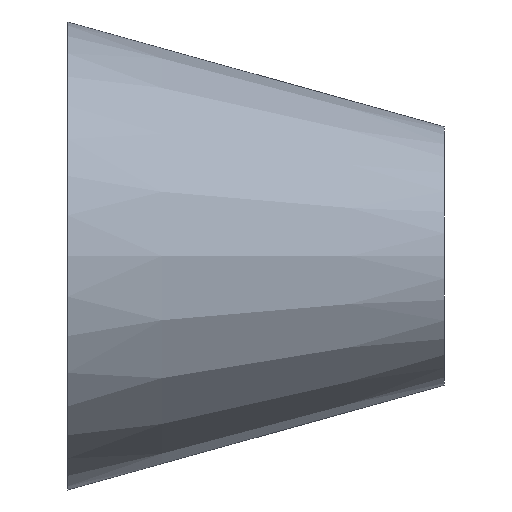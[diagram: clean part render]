
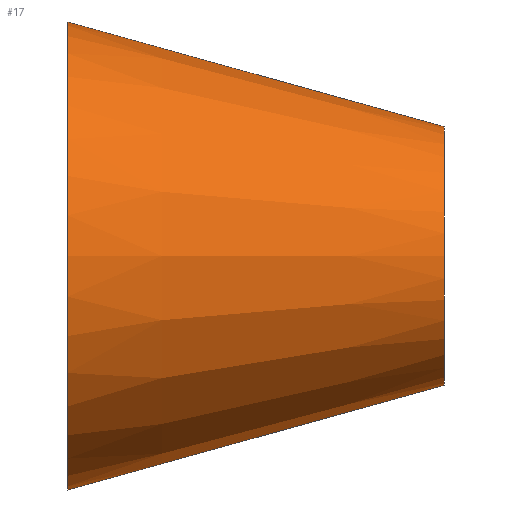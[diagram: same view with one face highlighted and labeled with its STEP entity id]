
A CAD part, front view. The second image highlights one B-rep face of the part: STEP entity #17.
In plain terms, the highlighted conical face has half-angle 15.548 degrees and reference radius 77 mm.
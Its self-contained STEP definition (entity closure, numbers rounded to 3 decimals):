
#17 = ADVANCED_FACE('',(#18),#31,.T.);
#18 = FACE_BOUND('',#19,.T.);
#19 = EDGE_LOOP('',(#20,#54,#74,#101));
#20 = ORIENTED_EDGE('',*,*,#21,.T.);
#21 = EDGE_CURVE('',#22,#22,#24,.T.);
#22 = VERTEX_POINT('',#23);
#23 = CARTESIAN_POINT('',(0.,77.,0.));
#24 = SURFACE_CURVE('',#25,(#30,#42),.PCURVE_S1.);
#25 = CIRCLE('',#26,77.);
#26 = AXIS2_PLACEMENT_3D('',#27,#28,#29);
#27 = CARTESIAN_POINT('',(0.,0.,0.));
#28 = DIRECTION('',(1.,0.,0.));
#29 = DIRECTION('',(0.,1.,0.));
#30 = PCURVE('',#31,#36);
#31 = CONICAL_SURFACE('',#32,77.,0.271);
#32 = AXIS2_PLACEMENT_3D('',#33,#34,#35);
#33 = CARTESIAN_POINT('',(0.,0.,0.));
#34 = DIRECTION('',(-1.,-0.,-0.));
#35 = DIRECTION('',(0.,1.,0.));
#36 = DEFINITIONAL_REPRESENTATION('',(#37),#41);
#37 = LINE('',#38,#39);
#38 = CARTESIAN_POINT('',(-0.,-0.));
#39 = VECTOR('',#40,1.);
#40 = DIRECTION('',(-1.,-0.));
#41 = ( GEOMETRIC_REPRESENTATION_CONTEXT(2) 
PARAMETRIC_REPRESENTATION_CONTEXT() REPRESENTATION_CONTEXT('2D SPACE',''
  ) );
#42 = PCURVE('',#43,#48);
#43 = PLANE('',#44);
#44 = AXIS2_PLACEMENT_3D('',#45,#46,#47);
#45 = CARTESIAN_POINT('',(0.,0.,0.));
#46 = DIRECTION('',(1.,0.,0.));
#47 = DIRECTION('',(0.,1.,0.));
#48 = DEFINITIONAL_REPRESENTATION('',(#49),#53);
#49 = CIRCLE('',#50,77.);
#50 = AXIS2_PLACEMENT_2D('',#51,#52);
#51 = CARTESIAN_POINT('',(0.,0.));
#52 = DIRECTION('',(1.,0.));
#53 = ( GEOMETRIC_REPRESENTATION_CONTEXT(2) 
PARAMETRIC_REPRESENTATION_CONTEXT() REPRESENTATION_CONTEXT('2D SPACE',''
  ) );
#54 = ORIENTED_EDGE('',*,*,#55,.T.);
#55 = EDGE_CURVE('',#22,#56,#58,.T.);
#56 = VERTEX_POINT('',#57);
#57 = CARTESIAN_POINT('',(124.,42.5,0.));
#58 = SEAM_CURVE('',#59,(#62,#68),.PCURVE_S1.);
#59 = B_SPLINE_CURVE_WITH_KNOTS('',1,(#60,#61),.UNSPECIFIED.,.F.,.F.,(2,
    2),(0.,1.),.PIECEWISE_BEZIER_KNOTS.);
#60 = CARTESIAN_POINT('',(0.,77.,0.));
#61 = CARTESIAN_POINT('',(124.,42.5,0.));
#62 = PCURVE('',#31,#63);
#63 = DEFINITIONAL_REPRESENTATION('',(#64),#67);
#64 = B_SPLINE_CURVE_WITH_KNOTS('',1,(#65,#66),.UNSPECIFIED.,.F.,.F.,(2,
    2),(0.,1.),.PIECEWISE_BEZIER_KNOTS.);
#65 = CARTESIAN_POINT('',(-6.283,0.));
#66 = CARTESIAN_POINT('',(-6.283,-124.));
#67 = ( GEOMETRIC_REPRESENTATION_CONTEXT(2) 
PARAMETRIC_REPRESENTATION_CONTEXT() REPRESENTATION_CONTEXT('2D SPACE',''
  ) );
#68 = PCURVE('',#31,#69);
#69 = DEFINITIONAL_REPRESENTATION('',(#70),#73);
#70 = B_SPLINE_CURVE_WITH_KNOTS('',1,(#71,#72),.UNSPECIFIED.,.F.,.F.,(2,
    2),(0.,1.),.PIECEWISE_BEZIER_KNOTS.);
#71 = CARTESIAN_POINT('',(0.,0.));
#72 = CARTESIAN_POINT('',(0.,-124.));
#73 = ( GEOMETRIC_REPRESENTATION_CONTEXT(2) 
PARAMETRIC_REPRESENTATION_CONTEXT() REPRESENTATION_CONTEXT('2D SPACE',''
  ) );
#74 = ORIENTED_EDGE('',*,*,#75,.F.);
#75 = EDGE_CURVE('',#56,#56,#76,.T.);
#76 = SURFACE_CURVE('',#77,(#82,#89),.PCURVE_S1.);
#77 = CIRCLE('',#78,42.5);
#78 = AXIS2_PLACEMENT_3D('',#79,#80,#81);
#79 = CARTESIAN_POINT('',(124.,0.,0.));
#80 = DIRECTION('',(1.,0.,0.));
#81 = DIRECTION('',(0.,1.,0.));
#82 = PCURVE('',#31,#83);
#83 = DEFINITIONAL_REPRESENTATION('',(#84),#88);
#84 = LINE('',#85,#86);
#85 = CARTESIAN_POINT('',(-0.,-124.));
#86 = VECTOR('',#87,1.);
#87 = DIRECTION('',(-1.,-0.));
#88 = ( GEOMETRIC_REPRESENTATION_CONTEXT(2) 
PARAMETRIC_REPRESENTATION_CONTEXT() REPRESENTATION_CONTEXT('2D SPACE',''
  ) );
#89 = PCURVE('',#90,#95);
#90 = PLANE('',#91);
#91 = AXIS2_PLACEMENT_3D('',#92,#93,#94);
#92 = CARTESIAN_POINT('',(124.,0.,0.));
#93 = DIRECTION('',(1.,0.,0.));
#94 = DIRECTION('',(0.,1.,0.));
#95 = DEFINITIONAL_REPRESENTATION('',(#96),#100);
#96 = CIRCLE('',#97,42.5);
#97 = AXIS2_PLACEMENT_2D('',#98,#99);
#98 = CARTESIAN_POINT('',(0.,0.));
#99 = DIRECTION('',(1.,0.));
#100 = ( GEOMETRIC_REPRESENTATION_CONTEXT(2) 
PARAMETRIC_REPRESENTATION_CONTEXT() REPRESENTATION_CONTEXT('2D SPACE',''
  ) );
#101 = ORIENTED_EDGE('',*,*,#55,.F.);
